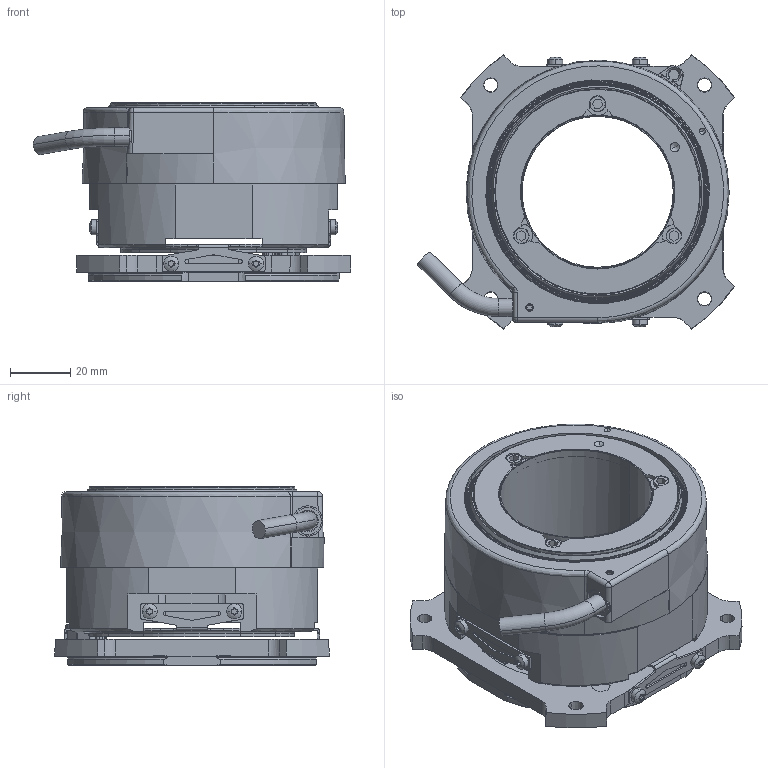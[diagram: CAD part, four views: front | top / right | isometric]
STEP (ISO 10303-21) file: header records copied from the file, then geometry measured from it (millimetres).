
FILE_DESCRIPTION(('Creo Elements/Direct Modeling STEP Export'),'2;1');
FILE_NAME('H2-D87i50-F.stp','2019-05-07T14:44:49',(''),(''),'Creo Elements/Direct Modeling STEP processor for AP214 (Solid Model)','Creo Elements/Direct Modeling 19.0G 27-Nov-2017 (C) Parametric Technology GmbH','');
FILE_SCHEMA(('AUTOMOTIVE_DESIGN { 1 0 10303 214 1 1 1 1 }'));
Length unit declared in the file: millimetre
Products named in the file (2): H2-D87i50-F
Assembly tree (1 placements, depth 2):
  H2-D87i50-F
    H2-D87i50-F
Bounding box: 104.93 x 90.74 x 59 mm (x, y, z)
Volume: 201017.1 mm3; surface area: 51647.3 mm2
Topology: 1 solids, 12 shells, 864 faces, 2430 edges, 1584 vertices
Faces by surface type: cylinder 345, plane 315, cone 96, torus 74, sphere 17, extrusion 13, bspline 4
Entity records: 29723 total; most frequent: CARTESIAN_POINT 8383, ORIENTED_EDGE 4842, DIRECTION 4045, EDGE_CURVE 2421, VERTEX_POINT 1584, AXIS2_PLACEMENT_3D 1512, VECTOR 1021, LINE 1012
